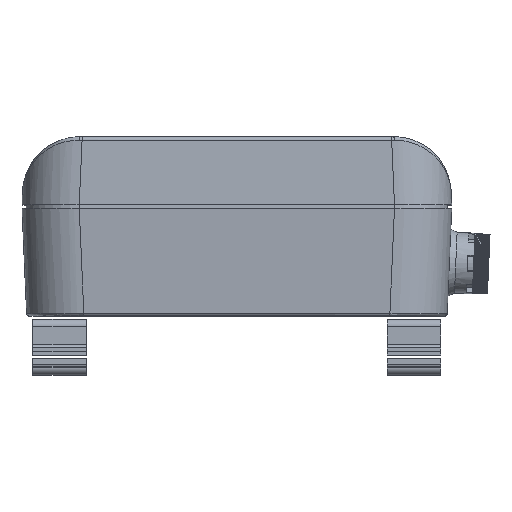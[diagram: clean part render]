
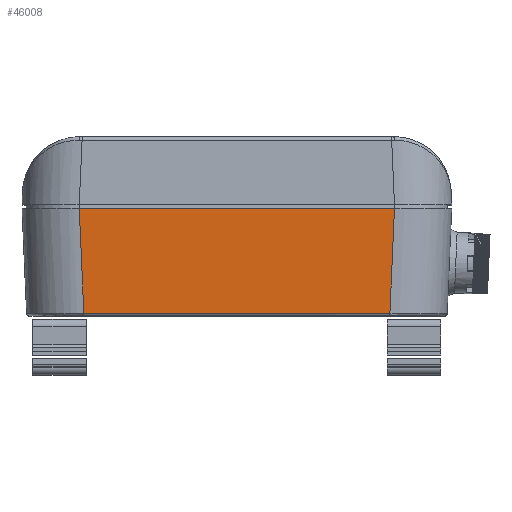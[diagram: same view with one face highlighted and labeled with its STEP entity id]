
A CAD part, top view. The second image highlights one B-rep face of the part: STEP entity #46008.
In plain terms, the highlighted planar face has unit normal (0, -0.044, 0.999).
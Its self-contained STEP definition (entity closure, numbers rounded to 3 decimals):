
#3165=PLANE('',#49319);
#4550=FACE_OUTER_BOUND('',#7218,.T.);
#7218=EDGE_LOOP('',(#34675,#34676,#34677,#34678));
#10745=LINE('',#73463,#14739);
#10800=LINE('',#74187,#14794);
#10801=LINE('',#74189,#14795);
#10802=LINE('',#74190,#14796);
#14739=VECTOR('',#56032,1000.);
#14794=VECTOR('',#56175,1000.);
#14795=VECTOR('',#56176,1000.);
#14796=VECTOR('',#56177,1000.);
#20383=VERTEX_POINT('',#73456);
#20384=VERTEX_POINT('',#73462);
#20437=VERTEX_POINT('',#74186);
#20438=VERTEX_POINT('',#74188);
#25596=EDGE_CURVE('',#20384,#20383,#10745,.T.);
#25678=EDGE_CURVE('',#20437,#20383,#10800,.T.);
#25679=EDGE_CURVE('',#20438,#20437,#10801,.T.);
#25680=EDGE_CURVE('',#20384,#20438,#10802,.T.);
#34675=ORIENTED_EDGE('',*,*,#25596,.T.);
#34676=ORIENTED_EDGE('',*,*,#25678,.F.);
#34677=ORIENTED_EDGE('',*,*,#25679,.F.);
#34678=ORIENTED_EDGE('',*,*,#25680,.F.);
#46008=ADVANCED_FACE('',(#4550),#3165,.T.);
#49319=AXIS2_PLACEMENT_3D('',#74185,#56173,#56174);
#56032=DIRECTION('',(1.,0.,0.));
#56173=DIRECTION('center_axis',(0.,-0.044,
0.999));
#56174=DIRECTION('ref_axis',(0.,-0.999,-0.044));
#56175=DIRECTION('',(-0.044,-0.998,-0.044));
#56176=DIRECTION('',(1.,0.,0.));
#56177=DIRECTION('',(-0.044,0.998,0.044));
#73456=CARTESIAN_POINT('',(42.737,-30.283,43.721));
#73462=CARTESIAN_POINT('',(-42.737,-30.283,43.721));
#73463=CARTESIAN_POINT('',(-20.,-30.283,43.721));
#74185=CARTESIAN_POINT('Origin',(-20.,-1.,45.));
#74186=CARTESIAN_POINT('',(44.015,-1.,45.));
#74187=CARTESIAN_POINT('',(43.856,-4.654,44.84));
#74188=CARTESIAN_POINT('',(-44.015,-1.,45.));
#74189=CARTESIAN_POINT('',(0.,-1.,45.));
#74190=CARTESIAN_POINT('',(-43.856,-4.654,44.84));
